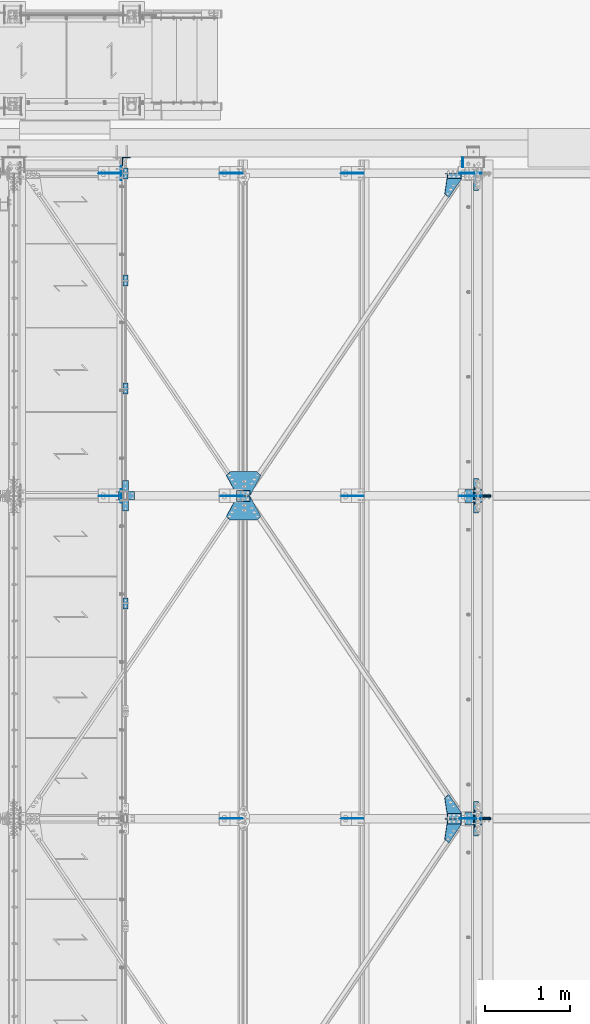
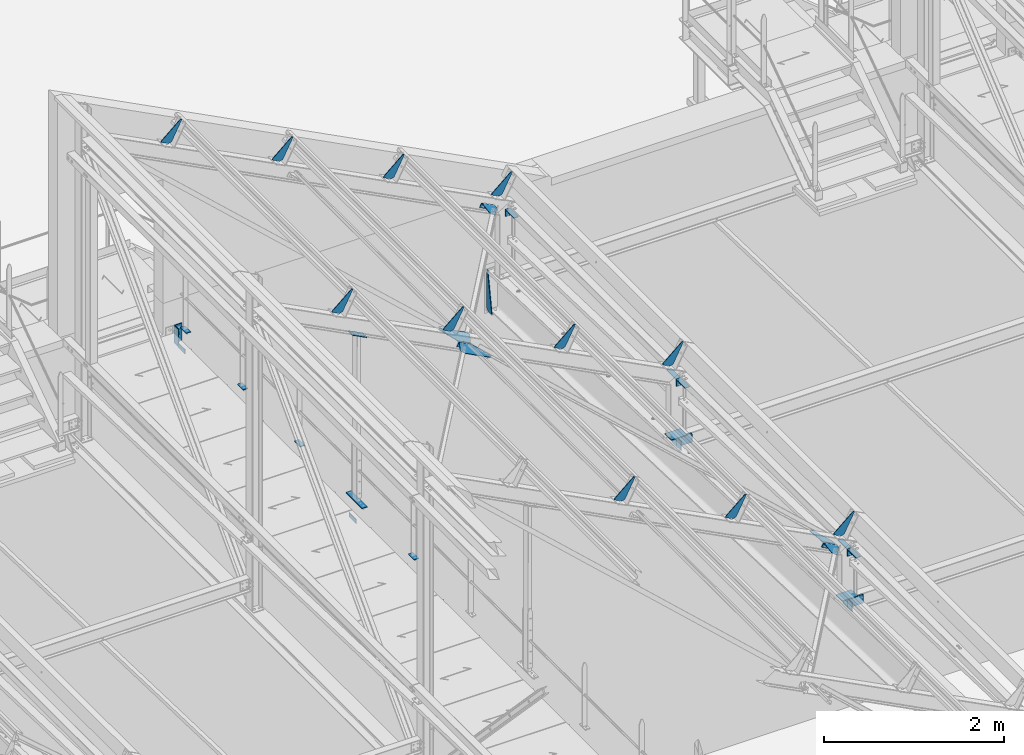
# One storey, part 93 of 362: 32 beams, 10 members, 39 elements without a shape of their own.
"""IFC2X3 building model written with IfcOpenShell, lengths in millimetres."""

from ifc_helpers import new_model, si_unit, frame, origin_with_axes, origin_2d_with_axis, place, context, subcontext, project, spatial, polyline, rectangle, l_section, outline, extrude, material, type_object, element, aggregate, save


model = new_model("IFC2X3")

# Units and contexts
model_context = context("Model", 3, precision=1e-05, world=origin_with_axes())
body_context = subcontext(model_context, "Body", "Model", "MODEL_VIEW")
ifc_project = project(units=[si_unit("LENGTHUNIT", "METRE", prefix="MILLI"), si_unit("AREAUNIT", "SQUARE_METRE"), si_unit("VOLUMEUNIT", "CUBIC_METRE"), si_unit("MASSUNIT", "GRAM", prefix="KILO"), si_unit("TIMEUNIT", "SECOND"), si_unit("PLANEANGLEUNIT", "RADIAN"), si_unit("SOLIDANGLEUNIT", "STERADIAN"), si_unit("THERMODYNAMICTEMPERATUREUNIT", "DEGREE_CELSIUS"), si_unit("LUMINOUSINTENSITYUNIT", "LUMEN")], contexts=[model_context])

# Site, building, storey
site_placement = place(None, origin_with_axes())
site = spatial("IfcSite", under=ifc_project, at=site_placement, Name="Undefined", CompositionType="ELEMENT")
building_placement = place(site_placement, origin_with_axes())
building = spatial("IfcBuilding", under=site, at=building_placement, Name="Undefined", CompositionType="ELEMENT")
storey_placement = place(building_placement, origin_with_axes())
storey = spatial("IfcBuildingStorey", under=building, at=storey_placement, Name="Undefined", CompositionType="ELEMENT", Elevation=0.0)

# Assembly, beams
assembly_1_placement = place(storey_placement, origin_with_axes())
assembly_1 = element("IfcElementAssembly", 1, at=assembly_1_placement, inside=storey, Name="MAIN COURANTE", AssemblyPlace="NOTDEFINED", PredefinedType="NOTDEFINED")
ifc_material = material(Name="Undefined/S235-E24")
beam_type_1 = type_object("IfcBeamType", Name="PL10*60", PredefinedType="NOTDEFINED")
beam_1_placement = place(assembly_1_placement, frame((24783.9916088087, 15265.0000000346, 8244.99999825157), z_axis=(-1.0, 0.0, 0.0), x_axis=(0.0, -1.0, 0.0)))
beam_1 = element("IfcBeam", 2, at=beam_1_placement, type_object=beam_type_1, material=ifc_material, Name="PLATINE", ObjectType="PL10*60", context=body_context, shape_type="SweptSolid", body=[
    extrude(rectangle(XDim=10.0, YDim=60.0, at=origin_2d_with_axis()), frame((130.0, 0.0, 0.0), z_axis=(-1.0, 0.0, 0.0), x_axis=(0.0, -1.0, 0.0)), (0.0, 0.0, 1.0), 130.0),
])
beam_2_placement = place(assembly_1_placement, frame((24783.9916067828, 12730.0034395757, 8245.00000008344), z_axis=(-1.0, 0.0, 0.0), x_axis=(0.0, -1.0, 0.0)))
beam_2 = element("IfcBeam", 3, at=beam_2_placement, type_object=beam_type_1, material=ifc_material, Name="PLATINE", ObjectType="PL10*60", context=body_context, shape_type="SweptSolid", body=[
    extrude(rectangle(XDim=10.0, YDim=60.0, at=origin_2d_with_axis()), frame((130.0, 0.0, 0.0), z_axis=(-1.0, 0.0, 0.0), x_axis=(0.0, -1.0, 0.0)), (0.0, 0.0, 1.0), 130.0),
])
beam_3_placement = place(assembly_1_placement, frame((24783.9916078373, 14000.0034395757, 8244.99999921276), z_axis=(-1.0, 0.0, 0.0), x_axis=(0.0, -1.0, 0.0)))
beam_3 = element("IfcBeam", 4, at=beam_3_placement, type_object=beam_type_1, material=ifc_material, Name="PLATINE", ObjectType="PL10*60", context=body_context, shape_type="SweptSolid", body=[
    extrude(rectangle(XDim=10.0, YDim=60.0, at=origin_2d_with_axis()), frame((130.0, 0.0, 0.0), z_axis=(-1.0, 0.0, 0.0), x_axis=(0.0, -1.0, 0.0)), (0.0, 0.0, 1.0), 130.0),
])
aggregate(assembly_1, [beam_1, beam_2, beam_3])

# Assembly, beam
assembly_2_placement = place(storey_placement, origin_with_axes())
assembly_2 = element("IfcElementAssembly", 5, at=assembly_2_placement, inside=storey, Name="MAIN COURANTE", AssemblyPlace="NOTDEFINED", PredefinedType="NOTDEFINED")
beam_4_placement = place(assembly_2_placement, frame((24783.9916051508, 10200.003439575, 8245.00000191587), z_axis=(-1.0, 0.0, 0.0), x_axis=(0.0, -1.0, 0.0)))
beam_4 = element("IfcBeam", 6, at=beam_4_placement, type_object=beam_type_1, material=ifc_material, Name="PLATINE", ObjectType="PL10*60", context=body_context, shape_type="SweptSolid", body=[
    extrude(rectangle(XDim=10.0, YDim=60.0, at=origin_2d_with_axis()), frame((130.0, 0.0, 0.0), z_axis=(-1.0, 0.0, 0.0), x_axis=(0.0, -1.0, 0.0)), (0.0, 0.0, 1.0), 130.0),
])
aggregate(assembly_2, [beam_4])

assembly_3_placement = place(storey_placement, origin_with_axes())
assembly_3 = element("IfcElementAssembly", 7, at=assembly_3_placement, inside=storey, Name="TRAVERSE SHED", AssemblyPlace="NOTDEFINED", PredefinedType="NOTDEFINED")
beam_type_2 = type_object("IfcBeamType", Name="PL10*200", PredefinedType="NOTDEFINED")
beam_5_placement = place(assembly_3_placement, frame((28880.0, 7674.80562184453, 7813.81292929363), z_axis=(-1.0, 0.0, 0.0), x_axis=(0.0, -0.999506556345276, 0.031410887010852)))
beam_5 = element("IfcBeam", 8, at=beam_5_placement, type_object=beam_type_2, material=ifc_material, Name="PLATINE", ObjectType="PL10*200", context=body_context, shape_type="SweptSolid", body=[
    extrude(rectangle(XDim=10.0, YDim=200.0, at=origin_2d_with_axis()), frame((150.0, 0.0, 0.0), z_axis=(-1.0, 0.0, 0.0), x_axis=(0.0, -1.0, 0.0)), (0.0, 0.0, 1.0), 150.0),
])
aggregate(assembly_3, [beam_5])

assembly_4_placement = place(storey_placement, origin_with_axes())
assembly_4 = element("IfcElementAssembly", 9, at=assembly_4_placement, inside=storey, Name="TRAVERSE SHED", AssemblyPlace="NOTDEFINED", PredefinedType="NOTDEFINED")
beam_6_placement = place(assembly_4_placement, frame((28880.0, 11474.8056218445, 7694.39265439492), z_axis=(-1.0, 0.0, 0.0), x_axis=(0.0, -0.999506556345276, 0.031410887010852)))
beam_6 = element("IfcBeam", 10, at=beam_6_placement, type_object=beam_type_2, material=ifc_material, Name="PLATINE", ObjectType="PL10*200", context=body_context, shape_type="SweptSolid", body=[
    extrude(rectangle(XDim=10.0, YDim=200.0, at=origin_2d_with_axis()), frame((150.0, 0.0, 0.0), z_axis=(-1.0, 0.0, 0.0), x_axis=(0.0, -1.0, 0.0)), (0.0, 0.0, 1.0), 150.0),
])
aggregate(assembly_4, [beam_6])

# Assembly, member
assembly_5_placement = place(storey_placement, origin_with_axes())
assembly_5 = element("IfcElementAssembly", 11, at=assembly_5_placement, inside=storey, AssemblyPlace="NOTDEFINED", PredefinedType="NOTDEFINED")
member_type_1 = type_object("IfcMemberType", Name="L60*6", PredefinedType="NOTDEFINED")
member_1_placement = place(assembly_5_placement, frame((28561.5673650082, 15167.0003434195, 8613.65554132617), z_axis=(0.0, -1.0, 0.0), x_axis=(0.887870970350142, -8.99999576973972e-09, -0.460092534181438)))
member_1 = element("IfcMember", 12, at=member_1_placement, type_object=member_type_1, material=ifc_material, Name="ATTACHE", ObjectType="L60*6", context=body_context, shape_type="SweptSolid", body=[
    extrude(l_section(Depth=60.0, Width=60.0, Thickness=6.0, FilletRadius=8.0, EdgeRadius=4.0, at=origin_2d_with_axis()), frame((180.0, 0.0, 0.0), z_axis=(-1.0, 0.0, 0.0), x_axis=(0.0, -1.0, 0.0)), (0.0, 0.0, 1.0), 180.0),
])
aggregate(assembly_5, [member_1])

assembly_6_placement = place(storey_placement, origin_with_axes())
assembly_6 = element("IfcElementAssembly", 13, at=assembly_6_placement, inside=storey, AssemblyPlace="NOTDEFINED", PredefinedType="NOTDEFINED")
member_2_placement = place(assembly_6_placement, frame((28561.5675687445, 7567.00034341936, 8613.6554948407), z_axis=(0.0, -1.0, 0.0), x_axis=(0.887870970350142, -8.99999576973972e-09, -0.460092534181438)))
member_2 = element("IfcMember", 14, at=member_2_placement, type_object=member_type_1, material=ifc_material, Name="ATTACHE", ObjectType="L60*6", context=body_context, shape_type="SweptSolid", body=[
    extrude(l_section(Depth=60.0, Width=60.0, Thickness=6.0, FilletRadius=8.0, EdgeRadius=4.0, at=origin_2d_with_axis()), frame((180.0, 0.0, 0.0), z_axis=(-1.0, 0.0, 0.0), x_axis=(0.0, -1.0, 0.0)), (0.0, 0.0, 1.0), 180.0),
])
aggregate(assembly_6, [member_2])

assembly_7_placement = place(storey_placement, origin_with_axes())
assembly_7 = element("IfcElementAssembly", 15, at=assembly_7_placement, inside=storey, AssemblyPlace="NOTDEFINED", PredefinedType="NOTDEFINED")
member_3_placement = place(assembly_7_placement, frame((28721.3843427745, 7633.00013993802, 8530.83883889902), z_axis=(0.0, 1.0, 0.0), x_axis=(-0.887870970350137, -2.80000019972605e-08, 0.460092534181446)))
member_3 = element("IfcMember", 16, at=member_3_placement, type_object=member_type_1, material=ifc_material, Name="ATTACHE", ObjectType="L60*6", context=body_context, shape_type="SweptSolid", body=[
    extrude(l_section(Depth=60.0, Width=60.0, Thickness=6.0, FilletRadius=8.0, EdgeRadius=4.0, at=origin_2d_with_axis()), frame((180.0, 0.0, 0.0), z_axis=(-1.0, 0.0, 0.0), x_axis=(0.0, -1.0, 0.0)), (0.0, 0.0, 1.0), 180.0),
])
aggregate(assembly_7, [member_3])

assembly_8_placement = place(storey_placement, origin_with_axes())
assembly_8 = element("IfcElementAssembly", 17, at=assembly_8_placement, inside=storey, AssemblyPlace="NOTDEFINED", PredefinedType="NOTDEFINED")
member_4_placement = place(assembly_8_placement, frame((26078.5292194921, 11367.0003023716, 9900.36237684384), z_axis=(0.0, -1.0, 0.0), x_axis=(0.887870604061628, 0.0, -0.460093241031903)))
member_4 = element("IfcMember", 18, at=member_4_placement, type_object=member_type_1, material=ifc_material, Name="ATTACHE", ObjectType="L60*6", context=body_context, shape_type="SweptSolid", body=[
    extrude(l_section(Depth=60.0, Width=60.0, Thickness=6.0, FilletRadius=8.0, EdgeRadius=4.0, at=origin_2d_with_axis()), frame((180.0, 0.0, 0.0), z_axis=(-1.0, 0.0, 0.0), x_axis=(0.0, -1.0, 0.0)), (0.0, 0.0, 1.0), 180.0),
])
aggregate(assembly_8, [member_4])

assembly_9_placement = place(storey_placement, origin_with_axes())
assembly_9 = element("IfcElementAssembly", 19, at=assembly_9_placement, inside=storey, AssemblyPlace="NOTDEFINED", PredefinedType="NOTDEFINED")
member_5_placement = place(assembly_9_placement, frame((26238.3459314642, 11433.0000991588, 9817.5456013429), z_axis=(0.0, 1.0, 0.0), x_axis=(-0.887870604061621, -1.29999898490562e-08, 0.460093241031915)))
member_5 = element("IfcMember", 20, at=member_5_placement, type_object=member_type_1, material=ifc_material, Name="ATTACHE", ObjectType="L60*6", context=body_context, shape_type="SweptSolid", body=[
    extrude(l_section(Depth=60.0, Width=60.0, Thickness=6.0, FilletRadius=8.0, EdgeRadius=4.0, at=origin_2d_with_axis()), frame((180.0, 0.0, 0.0), z_axis=(-1.0, 0.0, 0.0), x_axis=(0.0, -1.0, 0.0)), (0.0, 0.0, 1.0), 180.0),
])
aggregate(assembly_9, [member_5])

# Assembly, beam
assembly_10_placement = place(storey_placement, origin_with_axes())
assembly_10 = element("IfcElementAssembly", 21, at=assembly_10_placement, inside=storey, Name="PANNE SHED", AssemblyPlace="NOTDEFINED", PredefinedType="NOTDEFINED")
beam_type_3 = type_object("IfcBeamType", Name="TOLE8*140", PredefinedType="NOTDEFINED")
beam_7_placement = place(assembly_10_placement, frame((28714.4895719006, 15200.0, 8721.3758937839), z_axis=(0.0, -1.0, 0.0), x_axis=(-0.460093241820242, 0.0, -0.887870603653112)))
beam_7 = element("IfcBeam", 22, at=beam_7_placement, type_object=beam_type_3, material=ifc_material, Name="RAIDISSEUR", ObjectType="TOLE8*140", context=body_context, shape_type="SweptSolid", body=[
    extrude(outline(polyline([(0.0, 0.0), (19.9999999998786, -3.63797880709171e-12), (20.0000000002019, 109.999999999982), (-9.99999999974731, 139.99998998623), (-300.0000000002, 139.999893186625), (-300.000000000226, 119.999893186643), (0.0, 0.0)])), frame((0.0, 0.0, -4.0), z_axis=(0.0, 0.0, 1.0), x_axis=(1.0, 0.0, 0.0)), (0.0, 0.0, 1.0), 8.0),
])
aggregate(assembly_10, [beam_7])

assembly_11_placement = place(storey_placement, origin_with_axes())
assembly_11 = element("IfcElementAssembly", 23, at=assembly_11_placement, inside=storey, Name="PANNE SHED", AssemblyPlace="NOTDEFINED", PredefinedType="NOTDEFINED")
beam_8_placement = place(assembly_11_placement, frame((27327.8187212, 15200.0, 9439.946688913), z_axis=(0.0, -1.0, 0.0), x_axis=(-0.460093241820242, 0.0, -0.887870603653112)))
beam_8 = element("IfcBeam", 24, at=beam_8_placement, type_object=beam_type_3, material=ifc_material, Name="RAIDISSEUR", ObjectType="TOLE8*140", context=body_context, shape_type="SweptSolid", body=[
    extrude(outline(polyline([(0.0, 0.0), (19.9999999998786, -3.63797880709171e-12), (20.0000000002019, 109.999999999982), (-9.99999999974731, 139.99998998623), (-300.0000000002, 139.999893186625), (-300.000000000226, 119.999893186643), (0.0, 0.0)])), frame((0.0, 0.0, -4.0), z_axis=(0.0, 0.0, 1.0), x_axis=(1.0, 0.0, 0.0)), (0.0, 0.0, 1.0), 8.0),
])
aggregate(assembly_11, [beam_8])

assembly_12_placement = place(storey_placement, origin_with_axes())
assembly_12 = element("IfcElementAssembly", 25, at=assembly_12_placement, inside=storey, Name="PANNE SHED", AssemblyPlace="NOTDEFINED", PredefinedType="NOTDEFINED")
beam_9_placement = place(assembly_12_placement, frame((25901.1937204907, 15200.0, 10179.221665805), z_axis=(0.0, -1.0, 0.0), x_axis=(-0.460093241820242, 0.0, -0.887870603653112)))
beam_9 = element("IfcBeam", 26, at=beam_9_placement, type_object=beam_type_3, material=ifc_material, Name="RAIDISSEUR", ObjectType="TOLE8*140", context=body_context, shape_type="SweptSolid", body=[
    extrude(outline(polyline([(0.0, 0.0), (19.9999999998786, -3.63797880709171e-12), (20.0000000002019, 109.999999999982), (-9.99999999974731, 139.99998998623), (-300.0000000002, 139.999893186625), (-300.000000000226, 119.999893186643), (0.0, 0.0)])), frame((0.0, 0.0, -4.0), z_axis=(0.0, 0.0, 1.0), x_axis=(1.0, 0.0, 0.0)), (0.0, 0.0, 1.0), 8.0),
])
aggregate(assembly_12, [beam_9])

assembly_13_placement = place(storey_placement, origin_with_axes())
assembly_13 = element("IfcElementAssembly", 27, at=assembly_13_placement, inside=storey, Name="PANNE SHED", AssemblyPlace="NOTDEFINED", PredefinedType="NOTDEFINED")
beam_10_placement = place(assembly_13_placement, frame((24474.5687197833, 15200.0, 10918.4966426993), z_axis=(0.0, -1.0, 0.0), x_axis=(-0.460093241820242, 0.0, -0.887870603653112)))
beam_10 = element("IfcBeam", 28, at=beam_10_placement, type_object=beam_type_3, material=ifc_material, Name="RAIDISSEUR", ObjectType="TOLE8*140", context=body_context, shape_type="SweptSolid", body=[
    extrude(outline(polyline([(0.0, 0.0), (19.9999999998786, -3.63797880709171e-12), (20.0000000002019, 109.999999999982), (-9.99999999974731, 139.99998998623), (-300.0000000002, 139.999893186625), (-300.000000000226, 119.999893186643), (0.0, 0.0)])), frame((0.0, 0.0, -4.0), z_axis=(0.0, 0.0, 1.0), x_axis=(1.0, 0.0, 0.0)), (0.0, 0.0, 1.0), 8.0),
])
aggregate(assembly_13, [beam_10])

assembly_14_placement = place(storey_placement, origin_with_axes())
assembly_14 = element("IfcElementAssembly", 29, at=assembly_14_placement, inside=storey, Name="PANNE SHED", AssemblyPlace="NOTDEFINED", PredefinedType="NOTDEFINED")
beam_11_placement = place(assembly_14_placement, frame((28714.4895719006, 11400.0, 8721.3758937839), z_axis=(0.0, -1.0, 0.0), x_axis=(-0.460093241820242, 0.0, -0.887870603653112)))
beam_11 = element("IfcBeam", 30, at=beam_11_placement, type_object=beam_type_3, material=ifc_material, Name="RAIDISSEUR", ObjectType="TOLE8*140", context=body_context, shape_type="SweptSolid", body=[
    extrude(outline(polyline([(0.0, 0.0), (19.9999999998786, -3.63797880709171e-12), (20.0000000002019, 109.999999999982), (-9.99999999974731, 139.99998998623), (-300.0000000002, 139.999893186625), (-300.000000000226, 119.999893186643), (0.0, 0.0)])), frame((0.0, 0.0, -4.0), z_axis=(0.0, 0.0, 1.0), x_axis=(1.0, 0.0, 0.0)), (0.0, 0.0, 1.0), 8.0),
])
aggregate(assembly_14, [beam_11])

assembly_15_placement = place(storey_placement, origin_with_axes())
assembly_15 = element("IfcElementAssembly", 31, at=assembly_15_placement, inside=storey, Name="PANNE SHED", AssemblyPlace="NOTDEFINED", PredefinedType="NOTDEFINED")
beam_12_placement = place(assembly_15_placement, frame((27327.8187212, 11400.0, 9439.946688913), z_axis=(0.0, -1.0, 0.0), x_axis=(-0.460093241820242, 0.0, -0.887870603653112)))
beam_12 = element("IfcBeam", 32, at=beam_12_placement, type_object=beam_type_3, material=ifc_material, Name="RAIDISSEUR", ObjectType="TOLE8*140", context=body_context, shape_type="SweptSolid", body=[
    extrude(outline(polyline([(0.0, 0.0), (19.9999999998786, -3.63797880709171e-12), (20.0000000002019, 109.999999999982), (-9.99999999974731, 139.99998998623), (-300.0000000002, 139.999893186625), (-300.000000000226, 119.999893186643), (0.0, 0.0)])), frame((0.0, 0.0, -4.0), z_axis=(0.0, 0.0, 1.0), x_axis=(1.0, 0.0, 0.0)), (0.0, 0.0, 1.0), 8.0),
])
aggregate(assembly_15, [beam_12])

assembly_16_placement = place(storey_placement, origin_with_axes())
assembly_16 = element("IfcElementAssembly", 33, at=assembly_16_placement, inside=storey, Name="PANNE SHED", AssemblyPlace="NOTDEFINED", PredefinedType="NOTDEFINED")
beam_13_placement = place(assembly_16_placement, frame((25901.1937204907, 11400.0, 10179.221665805), z_axis=(0.0, -1.0, 0.0), x_axis=(-0.460093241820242, 0.0, -0.887870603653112)))
beam_13 = element("IfcBeam", 34, at=beam_13_placement, type_object=beam_type_3, material=ifc_material, Name="RAIDISSEUR", ObjectType="TOLE8*140", context=body_context, shape_type="SweptSolid", body=[
    extrude(outline(polyline([(0.0, 0.0), (19.9999999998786, -3.63797880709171e-12), (20.0000000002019, 109.999999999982), (-9.99999999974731, 139.99998998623), (-300.0000000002, 139.999893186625), (-300.000000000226, 119.999893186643), (0.0, 0.0)])), frame((0.0, 0.0, -4.0), z_axis=(0.0, 0.0, 1.0), x_axis=(1.0, 0.0, 0.0)), (0.0, 0.0, 1.0), 8.0),
])
aggregate(assembly_16, [beam_13])

assembly_17_placement = place(storey_placement, origin_with_axes())
assembly_17 = element("IfcElementAssembly", 35, at=assembly_17_placement, inside=storey, Name="PANNE SHED", AssemblyPlace="NOTDEFINED", PredefinedType="NOTDEFINED")
beam_14_placement = place(assembly_17_placement, frame((24474.5687197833, 11400.0, 10918.4966426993), z_axis=(0.0, -1.0, 0.0), x_axis=(-0.460093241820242, 0.0, -0.887870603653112)))
beam_14 = element("IfcBeam", 36, at=beam_14_placement, type_object=beam_type_3, material=ifc_material, Name="RAIDISSEUR", ObjectType="TOLE8*140", context=body_context, shape_type="SweptSolid", body=[
    extrude(outline(polyline([(0.0, 0.0), (19.9999999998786, -3.63797880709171e-12), (20.0000000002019, 109.999999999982), (-9.99999999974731, 139.99998998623), (-300.0000000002, 139.999893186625), (-300.000000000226, 119.999893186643), (0.0, 0.0)])), frame((0.0, 0.0, -4.0), z_axis=(0.0, 0.0, 1.0), x_axis=(1.0, 0.0, 0.0)), (0.0, 0.0, 1.0), 8.0),
])
aggregate(assembly_17, [beam_14])

assembly_18_placement = place(storey_placement, origin_with_axes())
assembly_18 = element("IfcElementAssembly", 37, at=assembly_18_placement, inside=storey, Name="PANNE SHED", AssemblyPlace="NOTDEFINED", PredefinedType="NOTDEFINED")
beam_15_placement = place(assembly_18_placement, frame((28714.4895719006, 7600.0, 8721.3758937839), z_axis=(0.0, -1.0, 0.0), x_axis=(-0.460093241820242, 0.0, -0.887870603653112)))
beam_15 = element("IfcBeam", 38, at=beam_15_placement, type_object=beam_type_3, material=ifc_material, Name="RAIDISSEUR", ObjectType="TOLE8*140", context=body_context, shape_type="SweptSolid", body=[
    extrude(outline(polyline([(0.0, 0.0), (19.9999999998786, -3.63797880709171e-12), (20.0000000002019, 109.999999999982), (-9.99999999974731, 139.99998998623), (-300.0000000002, 139.999893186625), (-300.000000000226, 119.999893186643), (0.0, 0.0)])), frame((0.0, 0.0, -4.0), z_axis=(0.0, 0.0, 1.0), x_axis=(1.0, 0.0, 0.0)), (0.0, 0.0, 1.0), 8.0),
])
aggregate(assembly_18, [beam_15])

assembly_19_placement = place(storey_placement, origin_with_axes())
assembly_19 = element("IfcElementAssembly", 39, at=assembly_19_placement, inside=storey, Name="PANNE SHED", AssemblyPlace="NOTDEFINED", PredefinedType="NOTDEFINED")
beam_16_placement = place(assembly_19_placement, frame((27327.8187212, 7600.0, 9439.946688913), z_axis=(0.0, -1.0, 0.0), x_axis=(-0.460093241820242, 0.0, -0.887870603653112)))
beam_16 = element("IfcBeam", 40, at=beam_16_placement, type_object=beam_type_3, material=ifc_material, Name="RAIDISSEUR", ObjectType="TOLE8*140", context=body_context, shape_type="SweptSolid", body=[
    extrude(outline(polyline([(0.0, 0.0), (19.9999999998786, -3.63797880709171e-12), (20.0000000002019, 109.999999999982), (-9.99999999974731, 139.99998998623), (-300.0000000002, 139.999893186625), (-300.000000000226, 119.999893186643), (0.0, 0.0)])), frame((0.0, 0.0, -4.0), z_axis=(0.0, 0.0, 1.0), x_axis=(1.0, 0.0, 0.0)), (0.0, 0.0, 1.0), 8.0),
])
aggregate(assembly_19, [beam_16])

assembly_20_placement = place(storey_placement, origin_with_axes())
assembly_20 = element("IfcElementAssembly", 41, at=assembly_20_placement, inside=storey, Name="PANNE SHED", AssemblyPlace="NOTDEFINED", PredefinedType="NOTDEFINED")
beam_17_placement = place(assembly_20_placement, frame((25901.1937204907, 7600.0, 10179.221665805), z_axis=(0.0, -1.0, 0.0), x_axis=(-0.460093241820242, 0.0, -0.887870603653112)))
beam_17 = element("IfcBeam", 42, at=beam_17_placement, type_object=beam_type_3, material=ifc_material, Name="RAIDISSEUR", ObjectType="TOLE8*140", context=body_context, shape_type="SweptSolid", body=[
    extrude(outline(polyline([(0.0, 0.0), (19.9999999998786, -3.63797880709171e-12), (20.0000000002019, 109.999999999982), (-9.99999999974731, 139.99998998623), (-300.0000000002, 139.999893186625), (-300.000000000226, 119.999893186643), (0.0, 0.0)])), frame((0.0, 0.0, -4.0), z_axis=(0.0, 0.0, 1.0), x_axis=(1.0, 0.0, 0.0)), (0.0, 0.0, 1.0), 8.0),
])
aggregate(assembly_20, [beam_17])

assembly_21_placement = place(storey_placement, origin_with_axes())
assembly_21 = element("IfcElementAssembly", 43, at=assembly_21_placement, inside=storey, AssemblyPlace="NOTDEFINED", PredefinedType="NOTDEFINED")
beam_type_4 = type_object("IfcBeamType", Name="TOLE6*178", PredefinedType="NOTDEFINED")
beam_18_placement = place(assembly_21_placement, frame((28541.9892757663, 14957.1141329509, 8660.96851491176), z_axis=(0.460093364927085, 0.0, 0.887870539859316), x_axis=(0.706117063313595, -0.606225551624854, -0.365908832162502)))
beam_18 = element("IfcBeam", 44, at=beam_18_placement, type_object=beam_type_4, material=ifc_material, Name="GOUSSET", ObjectType="TOLE6*178", context=body_context, shape_type="SweptSolid", body=[
    extrude(outline(polyline([(0.0, 0.0), (70.0, 0.0), (70.0000000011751, 269.669891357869), (34.9265289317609, 315.681945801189), (-108.226165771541, 206.561325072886), (0.0, 0.0)])), frame((0.0, 0.0, -3.0), z_axis=(0.0, 0.0, 1.0), x_axis=(1.0, 0.0, 0.0)), (0.0, 0.0, 1.0), 6.0),
])
aggregate(assembly_21, [beam_18])

assembly_22_placement = place(storey_placement, origin_with_axes())
assembly_22 = element("IfcElementAssembly", 45, at=assembly_22_placement, inside=storey, AssemblyPlace="NOTDEFINED", PredefinedType="NOTDEFINED")
beam_19_placement = place(assembly_22_placement, frame((28541.9893897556, 7357.11413294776, 8660.96851492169), z_axis=(0.460093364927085, 0.0, 0.887870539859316), x_axis=(0.706117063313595, -0.606225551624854, -0.365908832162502)))
beam_19 = element("IfcBeam", 46, at=beam_19_placement, type_object=beam_type_4, material=ifc_material, Name="GOUSSET", ObjectType="TOLE6*178", context=body_context, shape_type="SweptSolid", body=[
    extrude(outline(polyline([(0.0, 0.0), (70.0, 0.0), (70.0000000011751, 269.669891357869), (34.9265289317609, 315.681945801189), (-108.226165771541, 206.561325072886), (0.0, 0.0)])), frame((0.0, 0.0, -3.0), z_axis=(0.0, 0.0, 1.0), x_axis=(1.0, 0.0, 0.0)), (0.0, 0.0, 1.0), 6.0),
])
aggregate(assembly_22, [beam_19])

assembly_23_placement = place(storey_placement, origin_with_axes())
assembly_23 = element("IfcElementAssembly", 47, at=assembly_23_placement, inside=storey, AssemblyPlace="NOTDEFINED", PredefinedType="NOTDEFINED")
beam_20_placement = place(assembly_23_placement, frame((28541.9893838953, 7842.88634401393, 8660.96851492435), z_axis=(-0.460093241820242, 0.0, -0.887870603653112), x_axis=(0.706117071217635, 0.60622555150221, -0.365908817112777)))
beam_20 = element("IfcBeam", 48, at=beam_20_placement, type_object=beam_type_4, material=ifc_material, Name="GOUSSET", ObjectType="TOLE6*178", context=body_context, shape_type="SweptSolid", body=[
    extrude(outline(polyline([(0.0, 0.0), (70.0, 0.0), (70.0000000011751, 269.669891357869), (34.9265289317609, 315.681945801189), (-108.226165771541, 206.561325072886), (0.0, 0.0)])), frame((0.0, 0.0, -3.0), z_axis=(0.0, 0.0, 1.0), x_axis=(1.0, 0.0, 0.0)), (0.0, 0.0, 1.0), 6.0),
])
aggregate(assembly_23, [beam_20])

# Assembly, member
assembly_24_placement = place(storey_placement, origin_with_axes())
assembly_24 = element("IfcElementAssembly", 49, at=assembly_24_placement, inside=storey, AssemblyPlace="NOTDEFINED", PredefinedType="NOTDEFINED")
member_type_2 = type_object("IfcMemberType", Name="L200*100*10", PredefinedType="NOTDEFINED")
member_6_placement = place(assembly_24_placement, frame((28986.0000000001, 11451.0896058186, 7530.05644607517), z_axis=(1.0, 0.0, 0.0), x_axis=(7.58071938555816e-11, 0.0314107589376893, 0.999506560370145)))
member_6 = element("IfcMember", 50, at=member_6_placement, type_object=member_type_2, material=ifc_material, Name="ATTACHE", ObjectType="L200*100*10", context=body_context, shape_type="SweptSolid", body=[
    extrude(l_section(Depth=200.0, Width=100.0, Thickness=10.0, FilletRadius=15.0, EdgeRadius=7.5, at=origin_2d_with_axis()), frame((120.0, 0.0, 0.0), z_axis=(-1.0, 0.0, 0.0), x_axis=(0.0, -1.0, 0.0)), (0.0, 0.0, 1.0), 120.0),
])
aggregate(assembly_24, [member_6])

assembly_25_placement = place(storey_placement, origin_with_axes())
assembly_25 = element("IfcElementAssembly", 51, at=assembly_25_placement, inside=storey, AssemblyPlace="NOTDEFINED", PredefinedType="NOTDEFINED")
member_7_placement = place(assembly_25_placement, frame((28986.0000000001, 11348.9103962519, 7653.32684778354), z_axis=(1.0, 0.0, 0.0), x_axis=(-1.05403257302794e-09, -0.0314112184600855, -0.999506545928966)))
member_7 = element("IfcMember", 52, at=member_7_placement, type_object=member_type_2, material=ifc_material, Name="ATTACHE", ObjectType="L200*100*10", context=body_context, shape_type="SweptSolid", body=[
    extrude(l_section(Depth=200.0, Width=100.0, Thickness=10.0, FilletRadius=15.0, EdgeRadius=7.5, at=origin_2d_with_axis()), frame((120.0, 0.0, 0.0), z_axis=(-1.0, 0.0, 0.0), x_axis=(0.0, -1.0, 0.0)), (0.0, 0.0, 1.0), 120.0),
])
aggregate(assembly_25, [member_7])

assembly_26_placement = place(storey_placement, origin_with_axes())
assembly_26 = element("IfcElementAssembly", 53, at=assembly_26_placement, inside=storey, AssemblyPlace="NOTDEFINED", PredefinedType="NOTDEFINED")
member_8_placement = place(assembly_26_placement, frame((28986.0000000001, 7651.08959056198, 7649.47625808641), z_axis=(1.0, 0.0, 0.0), x_axis=(7.58071938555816e-11, 0.0314107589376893, 0.999506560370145)))
member_8 = element("IfcMember", 54, at=member_8_placement, type_object=member_type_2, material=ifc_material, Name="ATTACHE", ObjectType="L200*100*10", context=body_context, shape_type="SweptSolid", body=[
    extrude(l_section(Depth=200.0, Width=100.0, Thickness=10.0, FilletRadius=15.0, EdgeRadius=7.5, at=origin_2d_with_axis()), frame((120.0, 0.0, 0.0), z_axis=(-1.0, 0.0, 0.0), x_axis=(0.0, -1.0, 0.0)), (0.0, 0.0, 1.0), 120.0),
])
aggregate(assembly_26, [member_8])

assembly_27_placement = place(storey_placement, origin_with_axes())
assembly_27 = element("IfcElementAssembly", 55, at=assembly_27_placement, inside=storey, AssemblyPlace="NOTDEFINED", PredefinedType="NOTDEFINED")
member_9_placement = place(assembly_27_placement, frame((28986.0000000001, 7548.91038099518, 7772.74665979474), z_axis=(1.0, 0.0, 0.0), x_axis=(-1.05403257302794e-09, -0.0314112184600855, -0.999506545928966)))
member_9 = element("IfcMember", 56, at=member_9_placement, type_object=member_type_2, material=ifc_material, Name="ATTACHE", ObjectType="L200*100*10", context=body_context, shape_type="SweptSolid", body=[
    extrude(l_section(Depth=200.0, Width=100.0, Thickness=10.0, FilletRadius=15.0, EdgeRadius=7.5, at=origin_2d_with_axis()), frame((120.0, 0.0, 0.0), z_axis=(-1.0, 0.0, 0.0), x_axis=(0.0, -1.0, 0.0)), (0.0, 0.0, 1.0), 120.0),
])
aggregate(assembly_27, [member_9])

# Assembly, beam
assembly_28_placement = place(storey_placement, origin_with_axes())
assembly_28 = element("IfcElementAssembly", 57, at=assembly_28_placement, inside=storey, AssemblyPlace="NOTDEFINED", PredefinedType="NOTDEFINED")
beam_type_5 = type_object("IfcBeamType", Name="L200*100*10", PredefinedType="NOTDEFINED")
beam_21_placement = place(assembly_28_placement, frame((28880.0, 15096.5, 8400.0), z_axis=(0.0, -1.0, 0.0), x_axis=(1.0, 0.0, 0.0)))
beam_21 = element("IfcBeam", 58, at=beam_21_placement, type_object=beam_type_5, material=ifc_material, Name="ATTACHE", ObjectType="L200*100*10", context=body_context, shape_type="SweptSolid", body=[
    extrude(l_section(Depth=200.0, Width=100.0, Thickness=10.0, FilletRadius=15.0, EdgeRadius=7.5, at=origin_2d_with_axis()), frame((60.0, 0.0, 0.0), z_axis=(-1.0, 0.0, 0.0), x_axis=(0.0, -1.0, 0.0)), (0.0, 0.0, 1.0), 60.0),
])
aggregate(assembly_28, [beam_21])

assembly_29_placement = place(storey_placement, origin_with_axes())
assembly_29 = element("IfcElementAssembly", 59, at=assembly_29_placement, inside=storey, AssemblyPlace="NOTDEFINED", PredefinedType="NOTDEFINED")
beam_22_placement = place(assembly_29_placement, frame((28940.0, 11503.5, 8400.0), z_axis=(0.0, 1.0, 0.0), x_axis=(-1.0, 0.0, 0.0)))
beam_22 = element("IfcBeam", 60, at=beam_22_placement, type_object=beam_type_5, material=ifc_material, Name="ATTACHE", ObjectType="L200*100*10", context=body_context, shape_type="SweptSolid", body=[
    extrude(l_section(Depth=200.0, Width=100.0, Thickness=10.0, FilletRadius=15.0, EdgeRadius=7.5, at=origin_2d_with_axis()), frame((60.0, 0.0, 0.0), z_axis=(-1.0, 0.0, 0.0), x_axis=(0.0, -1.0, 0.0)), (0.0, 0.0, 1.0), 60.0),
])
aggregate(assembly_29, [beam_22])

assembly_30_placement = place(storey_placement, origin_with_axes())
assembly_30 = element("IfcElementAssembly", 61, at=assembly_30_placement, inside=storey, AssemblyPlace="NOTDEFINED", PredefinedType="NOTDEFINED")
beam_23_placement = place(assembly_30_placement, frame((28880.0, 11296.5, 8400.0), z_axis=(0.0, -1.0, 0.0), x_axis=(1.0, 0.0, 0.0)))
beam_23 = element("IfcBeam", 62, at=beam_23_placement, type_object=beam_type_5, material=ifc_material, Name="ATTACHE", ObjectType="L200*100*10", context=body_context, shape_type="SweptSolid", body=[
    extrude(l_section(Depth=200.0, Width=100.0, Thickness=10.0, FilletRadius=15.0, EdgeRadius=7.5, at=origin_2d_with_axis()), frame((60.0, 0.0, 0.0), z_axis=(-1.0, 0.0, 0.0), x_axis=(0.0, -1.0, 0.0)), (0.0, 0.0, 1.0), 60.0),
])
aggregate(assembly_30, [beam_23])

assembly_31_placement = place(storey_placement, origin_with_axes())
assembly_31 = element("IfcElementAssembly", 63, at=assembly_31_placement, inside=storey, AssemblyPlace="NOTDEFINED", PredefinedType="NOTDEFINED")
beam_24_placement = place(assembly_31_placement, frame((28940.0, 7703.5, 8400.0), z_axis=(0.0, 1.0, 0.0), x_axis=(-1.0, 0.0, 0.0)))
beam_24 = element("IfcBeam", 64, at=beam_24_placement, type_object=beam_type_5, material=ifc_material, Name="ATTACHE", ObjectType="L200*100*10", context=body_context, shape_type="SweptSolid", body=[
    extrude(l_section(Depth=200.0, Width=100.0, Thickness=10.0, FilletRadius=15.0, EdgeRadius=7.5, at=origin_2d_with_axis()), frame((60.0, 0.0, 0.0), z_axis=(-1.0, 0.0, 0.0), x_axis=(0.0, -1.0, 0.0)), (0.0, 0.0, 1.0), 60.0),
])
aggregate(assembly_31, [beam_24])

assembly_32_placement = place(storey_placement, origin_with_axes())
assembly_32 = element("IfcElementAssembly", 65, at=assembly_32_placement, inside=storey, AssemblyPlace="NOTDEFINED", PredefinedType="NOTDEFINED")
beam_25_placement = place(assembly_32_placement, frame((28880.0, 7496.5, 8400.0), z_axis=(0.0, -1.0, 0.0), x_axis=(1.0, 0.0, 0.0)))
beam_25 = element("IfcBeam", 66, at=beam_25_placement, type_object=beam_type_5, material=ifc_material, Name="ATTACHE", ObjectType="L200*100*10", context=body_context, shape_type="SweptSolid", body=[
    extrude(l_section(Depth=200.0, Width=100.0, Thickness=10.0, FilletRadius=15.0, EdgeRadius=7.5, at=origin_2d_with_axis()), frame((60.0, 0.0, 0.0), z_axis=(-1.0, 0.0, 0.0), x_axis=(0.0, -1.0, 0.0)), (0.0, 0.0, 1.0), 60.0),
])
aggregate(assembly_32, [beam_25])

# Assembly, member
assembly_33_placement = place(storey_placement, origin_with_axes())
assembly_33 = element("IfcElementAssembly", 67, at=assembly_33_placement, inside=storey, AssemblyPlace="NOTDEFINED", PredefinedType="NOTDEFINED")
member_type_3 = type_object("IfcMemberType", Name="PL10*100", PredefinedType="NOTDEFINED")
member_10_placement = place(assembly_33_placement, frame((24701.7827800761, 11400.0000000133, 10536.0763720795), z_axis=(0.0, -1.0, 0.0), x_axis=(0.887870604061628, 0.0, -0.460093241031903)))
member_10 = element("IfcMember", 68, at=member_10_placement, type_object=member_type_3, material=ifc_material, Name="PLATINE", ObjectType="PL10*100", context=body_context, shape_type="SweptSolid", body=[
    extrude(rectangle(XDim=10.0, YDim=100.0, at=origin_2d_with_axis()), frame((210.000000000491, 0.0, 1.81898940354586e-12), z_axis=(-1.0, 0.0, 0.0), x_axis=(0.0, -1.0, 0.0)), (0.0, 0.0, 1.0), 210.0),
])

# Assembly, beam
assembly_34_placement = place(storey_placement, origin_with_axes())
assembly_34 = element("IfcElementAssembly", 69, at=assembly_34_placement, inside=storey, AssemblyPlace="NOTDEFINED", PredefinedType="NOTDEFINED")
beam_type_6 = type_object("IfcBeamType", Name="TOLE6*60", PredefinedType="NOTDEFINED")
beam_26_placement = place(assembly_34_placement, frame((24732.9916006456, 11320.0, 7985.0), z_axis=(-1.0, 0.0, 0.0), x_axis=(0.0, 0.0, 1.0)))
beam_26 = element("IfcBeam", 70, at=beam_26_placement, type_object=beam_type_6, material=ifc_material, Name="PLATINE", ObjectType="TOLE6*60", context=body_context, shape_type="SweptSolid", body=[
    extrude(outline(polyline([(0.0, 0.0), (60.0, 0.0), (60.0, 159.999984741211), (0.0, 159.999984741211), (0.0, 0.0)])), frame((0.0, 0.0, -3.0), z_axis=(0.0, 0.0, 1.0), x_axis=(1.0, 0.0, 0.0)), (0.0, 0.0, 1.0), 6.0),
])
aggregate(assembly_34, [beam_26])

assembly_35_placement = place(storey_placement, origin_with_axes())
assembly_35 = element("IfcElementAssembly", 71, at=assembly_35_placement, inside=storey, AssemblyPlace="NOTDEFINED", PredefinedType="NOTDEFINED")
beam_27_placement = place(assembly_35_placement, frame((24732.9916006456, 15120.0, 7985.0), z_axis=(-1.0, 0.0, 0.0), x_axis=(0.0, 0.0, 1.0)))
beam_27 = element("IfcBeam", 72, at=beam_27_placement, type_object=beam_type_6, material=ifc_material, Name="PLATINE", ObjectType="TOLE6*60", context=body_context, shape_type="SweptSolid", body=[
    extrude(outline(polyline([(0.0, 0.0), (60.0, 0.0), (60.0, 159.999984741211), (0.0, 159.999984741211), (0.0, 0.0)])), frame((0.0, 0.0, -3.0), z_axis=(0.0, 0.0, 1.0), x_axis=(1.0, 0.0, 0.0)), (0.0, 0.0, 1.0), 6.0),
])
aggregate(assembly_35, [beam_27])

# Beam
beam_type_7 = type_object("IfcBeamType", Name="PL10*70", PredefinedType="NOTDEFINED")
beam_28_placement = place(assembly_33_placement, frame((24783.9916006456, 11580.0001061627, 8245.00000367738), z_axis=(1.0, 0.0, 0.0), x_axis=(0.0, -1.0, 0.0)))
beam_28 = element("IfcBeam", 73, at=beam_28_placement, type_object=beam_type_7, material=ifc_material, Name="PLATINE", ObjectType="PL10*70", context=body_context, shape_type="SweptSolid", body=[
    extrude(rectangle(XDim=10.0, YDim=70.0, at=origin_2d_with_axis()), frame((360.000000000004, 0.0, 0.0), z_axis=(-1.0, 0.0, 0.0), x_axis=(0.0, -1.0, 0.0)), (0.0, 0.0, 1.0), 360.0),
])

aggregate(assembly_33, [member_10, beam_28])

# Assembly, beam
assembly_36_placement = place(storey_placement, origin_with_axes())
assembly_36 = element("IfcElementAssembly", 74, at=assembly_36_placement, inside=storey, AssemblyPlace="NOTDEFINED", PredefinedType="NOTDEFINED")
beam_type_8 = type_object("IfcBeamType", Name="TOLE6*272", PredefinedType="NOTDEFINED")
beam_29_placement = place(assembly_36_placement, frame((26253.52894678, 11413.0000019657, 9846.84543829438), z_axis=(-0.460093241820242, 0.0, -0.887870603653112), x_axis=(-0.887870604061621, -1.29999898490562e-08, 0.460093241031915)))
beam_29 = element("IfcBeam", 75, at=beam_29_placement, type_object=beam_type_8, material=ifc_material, Name="GOUSSET", ObjectType="TOLE6*272", context=body_context, shape_type="SweptSolid", body=[
    extrude(outline(polyline([(0.0, 0.0), (180.000000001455, -5.27506927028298e-10), (319.15396118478, 229.886291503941), (263.483459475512, 272.322082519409), (-83.481330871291, 272.322082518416), (-139.151824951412, 229.88630676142), (0.0, 0.0)])), frame((0.0, 0.0, -3.0), z_axis=(0.0, 0.0, 1.0), x_axis=(1.0, 0.0, 0.0)), (0.0, 0.0, 1.0), 6.0),
])
aggregate(assembly_36, [beam_29])

assembly_37_placement = place(storey_placement, origin_with_axes())
assembly_37 = element("IfcElementAssembly", 76, at=assembly_37_placement, inside=storey, AssemblyPlace="NOTDEFINED", PredefinedType="NOTDEFINED")
beam_30_placement = place(assembly_37_placement, frame((26253.5289471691, 11387.0004049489, 9846.84543829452), z_axis=(0.460093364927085, 0.0, 0.887870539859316), x_axis=(-0.887870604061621, -1.29999898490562e-08, 0.460093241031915)))
beam_30 = element("IfcBeam", 77, at=beam_30_placement, type_object=beam_type_8, material=ifc_material, Name="GOUSSET", ObjectType="TOLE6*272", context=body_context, shape_type="SweptSolid", body=[
    extrude(outline(polyline([(0.0, 0.0), (180.000000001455, -5.27506927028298e-10), (319.15396118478, 229.886291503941), (263.483459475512, 272.322082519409), (-83.481330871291, 272.322082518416), (-139.151824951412, 229.88630676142), (0.0, 0.0)])), frame((0.0, 0.0, -3.0), z_axis=(0.0, 0.0, 1.0), x_axis=(1.0, 0.0, 0.0)), (0.0, 0.0, 1.0), 6.0),
])
aggregate(assembly_37, [beam_30])

assembly_38_placement = place(storey_placement, origin_with_axes())
assembly_38 = element("IfcElementAssembly", 78, at=assembly_38_placement, inside=storey, AssemblyPlace="NOTDEFINED", PredefinedType="NOTDEFINED")
beam_type_9 = type_object("IfcBeamType", Name="L100*10", PredefinedType="NOTDEFINED")
beam_31_placement = place(assembly_38_placement, frame((24792.491600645, 15339.9999999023, 8210.00437164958), z_axis=(1.0, 0.0, 0.0), x_axis=(0.0, 0.0, -1.0)))
beam_31 = element("IfcBeam", 79, at=beam_31_placement, type_object=beam_type_9, material=ifc_material, Name="ATTACHE", ObjectType="L100*10", context=body_context, shape_type="SweptSolid", body=[
    extrude(l_section(Depth=100.0, Width=100.0, Thickness=10.0, FilletRadius=12.0, EdgeRadius=6.0, at=origin_2d_with_axis()), frame((240.0, 0.0, 0.0), z_axis=(-1.0, 0.0, 0.0), x_axis=(0.0, -1.0, 0.0)), (0.0, 0.0, 1.0), 240.0),
])
aggregate(assembly_38, [beam_31])

assembly_39_placement = place(storey_placement, origin_with_axes())
assembly_39 = element("IfcElementAssembly", 80, at=assembly_39_placement, inside=storey, AssemblyPlace="NOTDEFINED", PredefinedType="NOTDEFINED")
beam_type_10 = type_object("IfcBeamType", Name="PL10*110", PredefinedType="NOTDEFINED")
beam_32_placement = place(assembly_39_placement, frame((28755.0000000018, 15270.042093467, 7019.84807001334), z_axis=(-1.0, 0.0, 0.0), x_axis=(7.58071938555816e-11, 0.0314107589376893, 0.999506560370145)))
beam_32 = element("IfcBeam", 81, at=beam_32_placement, type_object=beam_type_10, material=ifc_material, Name="RAIDISSEUR", ObjectType="PL10*110", context=body_context, shape_type="SweptSolid", body=[
    extrude(outline(polyline([(0.0, 0.0), (19.9999999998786, -3.63797880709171e-12), (547.705993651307, 72.789970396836), (548.334167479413, 92.780097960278), (29.9851968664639, 109.069869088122), (3.83439057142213e-08, 80.0121917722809), (0.0, 0.0)])), frame((0.0, 0.0, -5.0), z_axis=(0.0, 0.0, 1.0), x_axis=(1.0, 0.0, 0.0)), (0.0, 0.0, 1.0), 10.0),
])
aggregate(assembly_39, [beam_32])

save(model, "model.ifc")
